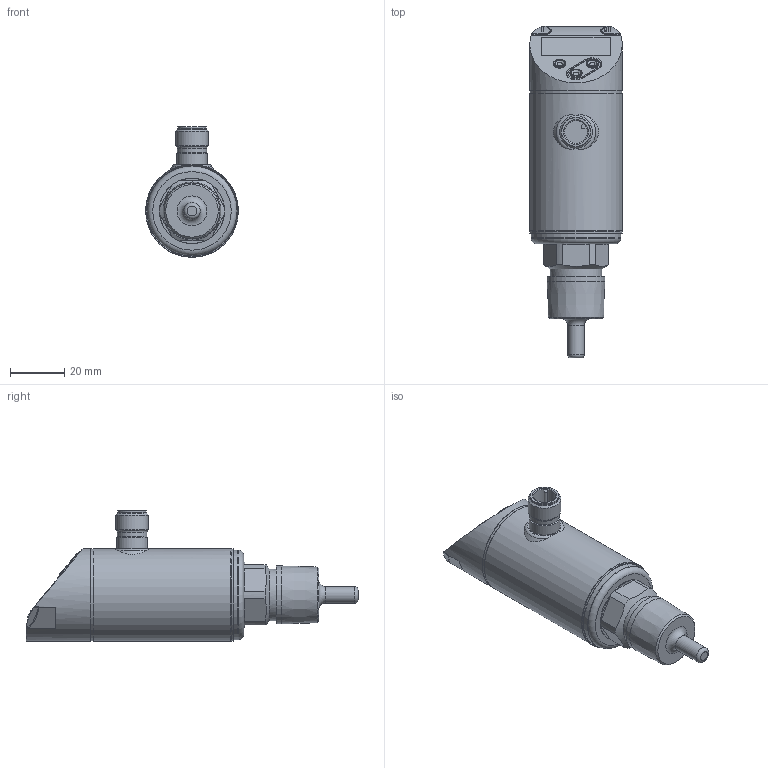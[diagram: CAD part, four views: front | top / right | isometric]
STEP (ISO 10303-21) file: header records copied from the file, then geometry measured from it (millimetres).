
FILE_DESCRIPTION( ( 'STEP AP203' ), ' ' );
FILE_NAME( 'p:/temp/worker_5507/3504_4592/app_43_02017021513393144525245192d056f_000000_00_00_000000/format_3/TN2303.stp', '2017-02-15T12:39:34', ( '' ), ( '' ), ' ', 'PARTsolutions', ' ' );
FILE_SCHEMA( ( 'CONFIG_CONTROL_DESIGN' ) );
Length unit declared in the file: millimetre
Products named in the file (2): TN2303; _TN2303_b
Assembly tree (1 placements, depth 2):
  TN2303
    _TN2303_b
Bounding box: 34.1 x 122 x 48 mm (x, y, z)
Volume: 76716.4 mm3; surface area: 12753.2 mm2
Topology: 1 solids, 1 shells, 176 faces, 432 edges, 282 vertices
Faces by surface type: plane 88, cylinder 64, torus 11, cone 10, sphere 3
Full cylindrical faces by diameter (mm): 4.45 x3, 6 x1, 8.45 x1, 10.39 x1, 10.55 x1, 10.8 x1, 11.3 x1, 12 x1, 18.9 x1, 21.292 x1, 24 x1, 32.88 x1, 33.8 x1, 34 x2, 34.1 x1
Entity records: 5374 total; most frequent: CARTESIAN_POINT 1286, DIRECTION 843, ORIENTED_EDGE 774, EDGE_CURVE 387, AXIS2_PLACEMENT_3D 328, VERTEX_POINT 275, EDGE_LOOP 238, FACE_OUTER_BOUND 206
